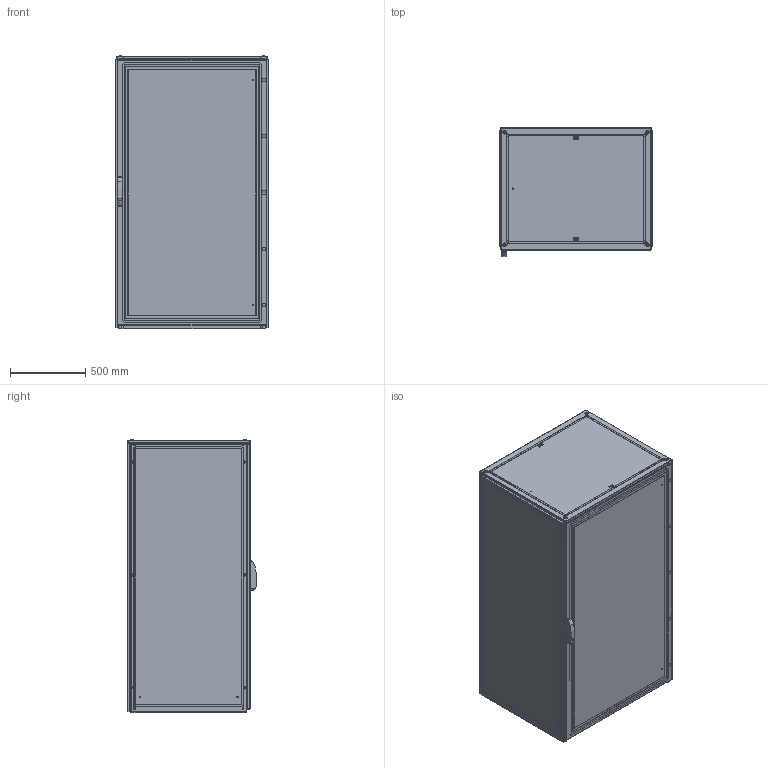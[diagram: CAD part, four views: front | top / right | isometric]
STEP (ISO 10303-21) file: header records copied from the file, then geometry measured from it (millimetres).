
FILE_DESCRIPTION(/* description */ ('STEP AP214'),/* implementation_level */ '2;1');
FILE_NAME(/* name */ 'ENUX101808PR-LOD350',/* time_stamp */ '2025-10-03T14:31:32+02:00',/* author */ ('License CC BY-ND 4.0'),/* organization */ ('CADENAS'),/* preprocessor_version */ 'ST-DEVELOPER v19.3',/* originating_system */ 'PARTsolutions',/* authorisation */ ' ');
FILE_SCHEMA (('AUTOMOTIVE_DESIGN {1 0 10303 214 3 1 1}'));
Length unit declared in the file: millimetre
Products named in the file (11): ENUX101808PR-LOD350; ENUX101808PR-LOD350_CON; ENUX101808PR-LOD350_floor1; ENUX101808PR-LOD350_floor2; Screw M12x30 architecture 350; ENUX101808PR-LOD350_side; ENUX101808PR-LOD350_top; ENUX101808PR-LOD350_back_door_r; ENUX101808PR-LOD350_back_door_l; ENUX101808PR-LOD350_door; ENUX101808PR-LOD350_handle
Assembly tree (26 placements, depth 2):
  ENUX101808PR-LOD350
    ENUX101808PR-LOD350_CON
    ENUX101808PR-LOD350_floor1  x4
    ENUX101808PR-LOD350_floor2  x10
    Screw M12x30 architecture 350  x4
    ENUX101808PR-LOD350_side  x2
    ENUX101808PR-LOD350_top
    ENUX101808PR-LOD350_back_door_r
    ENUX101808PR-LOD350_back_door_l
    ENUX101808PR-LOD350_door
    ENUX101808PR-LOD350_handle
Bounding box: 1012 x 857 x 1814.1 mm (x, y, z)
Volume: 28914748 mm3; surface area: 23020471.8 mm2
Topology: 26 solids, 26 shells, 2463 faces, 6828 edges, 4445 vertices
Faces by surface type: plane 1315, cylinder 948, cone 95, torus 88, sphere 17
Full cylindrical faces by diameter (mm): 4.5 x144, 6 x20, 6.8 x8, 7 x4, 9 x11, 12 x16, 13 x4, 14 x2, 17 x2, 18 x1, 21 x4, 28 x2
Entity records: 55089 total; most frequent: DIRECTION 9561, CARTESIAN_POINT 9511, ORIENTED_EDGE 8900, EDGE_CURVE 4450, AXIS2_PLACEMENT_3D 3427, VERTEX_POINT 3120, LINE 2707, VECTOR 2707
